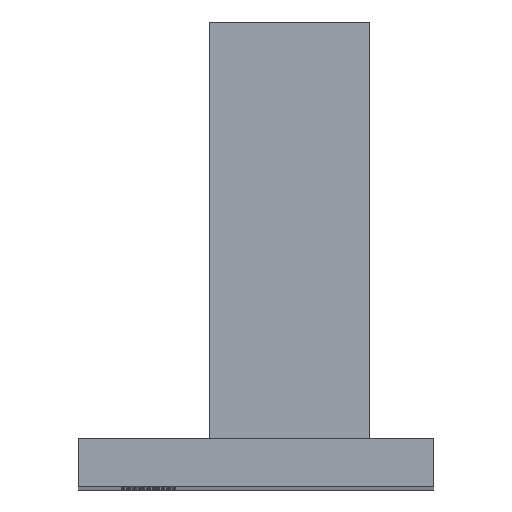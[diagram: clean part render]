
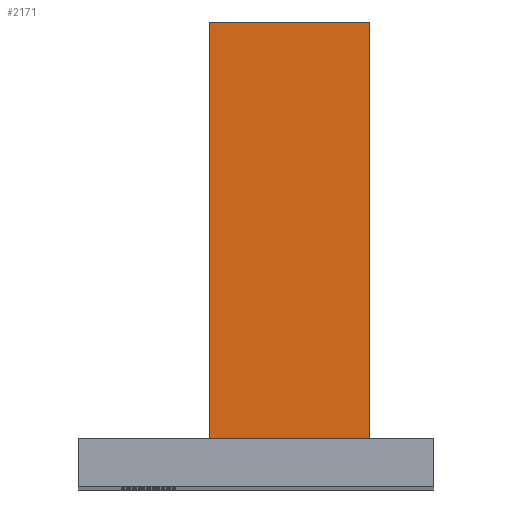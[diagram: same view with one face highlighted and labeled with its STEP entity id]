
A CAD part, top view. The second image highlights one B-rep face of the part: STEP entity #2171.
In plain terms, the highlighted planar face has unit normal (0, 0, 1).
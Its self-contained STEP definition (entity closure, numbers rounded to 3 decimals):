
#100 = PLANE('',#101);
#101 = AXIS2_PLACEMENT_3D('',#102,#103,#104);
#102 = CARTESIAN_POINT('',(-197.,0.,0.));
#103 = DIRECTION('',(-0.,1.,0.));
#104 = DIRECTION('',(0.,0.,-1.));
#710 = EDGE_CURVE('',#711,#713,#715,.T.);
#711 = VERTEX_POINT('',#712);
#712 = CARTESIAN_POINT('',(-205.,0.,188.));
#713 = VERTEX_POINT('',#714);
#714 = CARTESIAN_POINT('',(-225.,0.,188.));
#715 = SURFACE_CURVE('',#716,(#720,#727),.PCURVE_S1.);
#716 = LINE('',#717,#718);
#717 = CARTESIAN_POINT('',(-205.,0.,188.));
#718 = VECTOR('',#719,1.);
#719 = DIRECTION('',(-1.,-0.,0.));
#720 = PCURVE('',#100,#721);
#721 = DEFINITIONAL_REPRESENTATION('',(#722),#726);
#722 = LINE('',#723,#724);
#723 = CARTESIAN_POINT('',(-188.,8.));
#724 = VECTOR('',#725,1.);
#725 = DIRECTION('',(-0.,1.));
#726 = ( GEOMETRIC_REPRESENTATION_CONTEXT(2) 
PARAMETRIC_REPRESENTATION_CONTEXT() REPRESENTATION_CONTEXT('2D SPACE',''
  ) );
#727 = PCURVE('',#728,#733);
#728 = PLANE('',#729);
#729 = AXIS2_PLACEMENT_3D('',#730,#731,#732);
#730 = CARTESIAN_POINT('',(-205.,0.,188.));
#731 = DIRECTION('',(0.,0.,1.));
#732 = DIRECTION('',(1.,0.,0.));
#733 = DEFINITIONAL_REPRESENTATION('',(#734),#738);
#734 = LINE('',#735,#736);
#735 = CARTESIAN_POINT('',(0.,-0.));
#736 = VECTOR('',#737,1.);
#737 = DIRECTION('',(-1.,0.));
#738 = ( GEOMETRIC_REPRESENTATION_CONTEXT(2) 
PARAMETRIC_REPRESENTATION_CONTEXT() REPRESENTATION_CONTEXT('2D SPACE',''
  ) );
#756 = PLANE('',#757);
#757 = AXIS2_PLACEMENT_3D('',#758,#759,#760);
#758 = CARTESIAN_POINT('',(-205.,0.,160.));
#759 = DIRECTION('',(-1.,-0.,0.));
#760 = DIRECTION('',(0.,0.,-1.));
#810 = PLANE('',#811);
#811 = AXIS2_PLACEMENT_3D('',#812,#813,#814);
#812 = CARTESIAN_POINT('',(-225.,0.,160.));
#813 = DIRECTION('',(-1.,-0.,0.));
#814 = DIRECTION('',(0.,0.,-1.));
#2171 = ADVANCED_FACE('',(#2172),#728,.T.);
#2172 = FACE_BOUND('',#2173,.F.);
#2173 = EDGE_LOOP('',(#2174,#2197,#2198,#2221));
#2174 = ORIENTED_EDGE('',*,*,#2175,.F.);
#2175 = EDGE_CURVE('',#711,#2176,#2178,.T.);
#2176 = VERTEX_POINT('',#2177);
#2177 = CARTESIAN_POINT('',(-205.,52.,188.));
#2178 = SURFACE_CURVE('',#2179,(#2183,#2190),.PCURVE_S1.);
#2179 = LINE('',#2180,#2181);
#2180 = CARTESIAN_POINT('',(-205.,0.,188.));
#2181 = VECTOR('',#2182,1.);
#2182 = DIRECTION('',(-0.,1.,0.));
#2183 = PCURVE('',#728,#2184);
#2184 = DEFINITIONAL_REPRESENTATION('',(#2185),#2189);
#2185 = LINE('',#2186,#2187);
#2186 = CARTESIAN_POINT('',(0.,-0.));
#2187 = VECTOR('',#2188,1.);
#2188 = DIRECTION('',(-0.,1.));
#2189 = ( GEOMETRIC_REPRESENTATION_CONTEXT(2) 
PARAMETRIC_REPRESENTATION_CONTEXT() REPRESENTATION_CONTEXT('2D SPACE',''
  ) );
#2190 = PCURVE('',#756,#2191);
#2191 = DEFINITIONAL_REPRESENTATION('',(#2192),#2196);
#2192 = LINE('',#2193,#2194);
#2193 = CARTESIAN_POINT('',(-28.,-0.));
#2194 = VECTOR('',#2195,1.);
#2195 = DIRECTION('',(-0.,-1.));
#2196 = ( GEOMETRIC_REPRESENTATION_CONTEXT(2) 
PARAMETRIC_REPRESENTATION_CONTEXT() REPRESENTATION_CONTEXT('2D SPACE',''
  ) );
#2197 = ORIENTED_EDGE('',*,*,#710,.T.);
#2198 = ORIENTED_EDGE('',*,*,#2199,.T.);
#2199 = EDGE_CURVE('',#713,#2200,#2202,.T.);
#2200 = VERTEX_POINT('',#2201);
#2201 = CARTESIAN_POINT('',(-225.,52.,188.));
#2202 = SURFACE_CURVE('',#2203,(#2207,#2214),.PCURVE_S1.);
#2203 = LINE('',#2204,#2205);
#2204 = CARTESIAN_POINT('',(-225.,0.,188.));
#2205 = VECTOR('',#2206,1.);
#2206 = DIRECTION('',(-0.,1.,0.));
#2207 = PCURVE('',#728,#2208);
#2208 = DEFINITIONAL_REPRESENTATION('',(#2209),#2213);
#2209 = LINE('',#2210,#2211);
#2210 = CARTESIAN_POINT('',(-20.,0.));
#2211 = VECTOR('',#2212,1.);
#2212 = DIRECTION('',(-0.,1.));
#2213 = ( GEOMETRIC_REPRESENTATION_CONTEXT(2) 
PARAMETRIC_REPRESENTATION_CONTEXT() REPRESENTATION_CONTEXT('2D SPACE',''
  ) );
#2214 = PCURVE('',#810,#2215);
#2215 = DEFINITIONAL_REPRESENTATION('',(#2216),#2220);
#2216 = LINE('',#2217,#2218);
#2217 = CARTESIAN_POINT('',(-28.,-0.));
#2218 = VECTOR('',#2219,1.);
#2219 = DIRECTION('',(-0.,-1.));
#2220 = ( GEOMETRIC_REPRESENTATION_CONTEXT(2) 
PARAMETRIC_REPRESENTATION_CONTEXT() REPRESENTATION_CONTEXT('2D SPACE',''
  ) );
#2221 = ORIENTED_EDGE('',*,*,#2222,.F.);
#2222 = EDGE_CURVE('',#2176,#2200,#2223,.T.);
#2223 = SURFACE_CURVE('',#2224,(#2228,#2235),.PCURVE_S1.);
#2224 = LINE('',#2225,#2226);
#2225 = CARTESIAN_POINT('',(-205.,52.,188.));
#2226 = VECTOR('',#2227,1.);
#2227 = DIRECTION('',(-1.,-0.,0.));
#2228 = PCURVE('',#728,#2229);
#2229 = DEFINITIONAL_REPRESENTATION('',(#2230),#2234);
#2230 = LINE('',#2231,#2232);
#2231 = CARTESIAN_POINT('',(0.,52.));
#2232 = VECTOR('',#2233,1.);
#2233 = DIRECTION('',(-1.,0.));
#2234 = ( GEOMETRIC_REPRESENTATION_CONTEXT(2) 
PARAMETRIC_REPRESENTATION_CONTEXT() REPRESENTATION_CONTEXT('2D SPACE',''
  ) );
#2235 = PCURVE('',#2236,#2241);
#2236 = PLANE('',#2237);
#2237 = AXIS2_PLACEMENT_3D('',#2238,#2239,#2240);
#2238 = CARTESIAN_POINT('',(-205.,52.,160.));
#2239 = DIRECTION('',(-0.,1.,0.));
#2240 = DIRECTION('',(0.,0.,-1.));
#2241 = DEFINITIONAL_REPRESENTATION('',(#2242),#2246);
#2242 = LINE('',#2243,#2244);
#2243 = CARTESIAN_POINT('',(-28.,-0.));
#2244 = VECTOR('',#2245,1.);
#2245 = DIRECTION('',(-0.,1.));
#2246 = ( GEOMETRIC_REPRESENTATION_CONTEXT(2) 
PARAMETRIC_REPRESENTATION_CONTEXT() REPRESENTATION_CONTEXT('2D SPACE',''
  ) );
